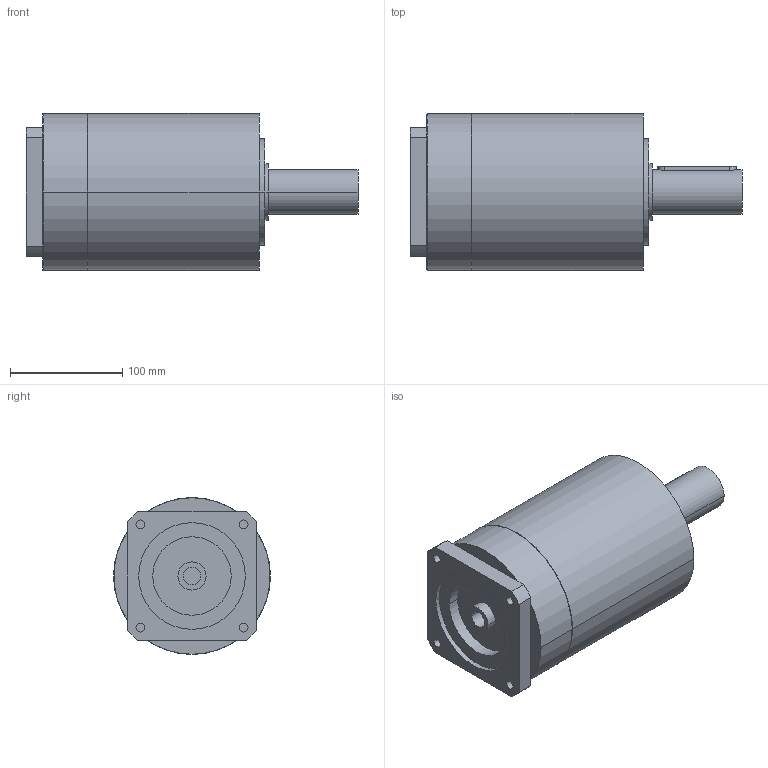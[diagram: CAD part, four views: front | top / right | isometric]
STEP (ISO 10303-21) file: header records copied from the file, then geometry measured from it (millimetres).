
FILE_DESCRIPTION(('CoCreate Modeling STEP Export'),'2;1');
FILE_NAME('GPR150_ig-9-12-16-20-28-35_40_B14_16_P10.stp','2014-08-19T17:03:03',(''),(''),'CoCreate Modeling STEP processor for AP214 (Solid Model)','CoCreate Modeling 16.00C 25-Feb-2009 (C) Parametric Technology GmbH','');
FILE_SCHEMA(('AUTOMOTIVE_DESIGN { 1 0 10303 214 1 1 1 1 }'));
Length unit declared in the file: millimetre
Products named in the file (2): GPR150_ig-9-12-16-20-28-35_40_B14_16_P10
Assembly tree (1 placements, depth 2):
  GPR150_ig-9-12-16-20-28-35_40_B14_16_P10
    GPR150_ig-9-12-16-20-28-35_40_B14_16_P10
Bounding box: 296 x 140 x 140 mm (x, y, z)
Volume: 3218318 mm3; surface area: 148657.5 mm2
Topology: 1 solids, 1 shells, 81 faces, 200 edges, 136 vertices
Faces by surface type: cylinder 42, plane 33, cone 6
Entity records: 2061 total; most frequent: ORIENTED_EDGE 396, CARTESIAN_POINT 395, DIRECTION 272, EDGE_CURVE 198, VERTEX_POINT 136, AXIS2_PLACEMENT_3D 101, EDGE_LOOP 98, FACE_OUTER_BOUND 81
